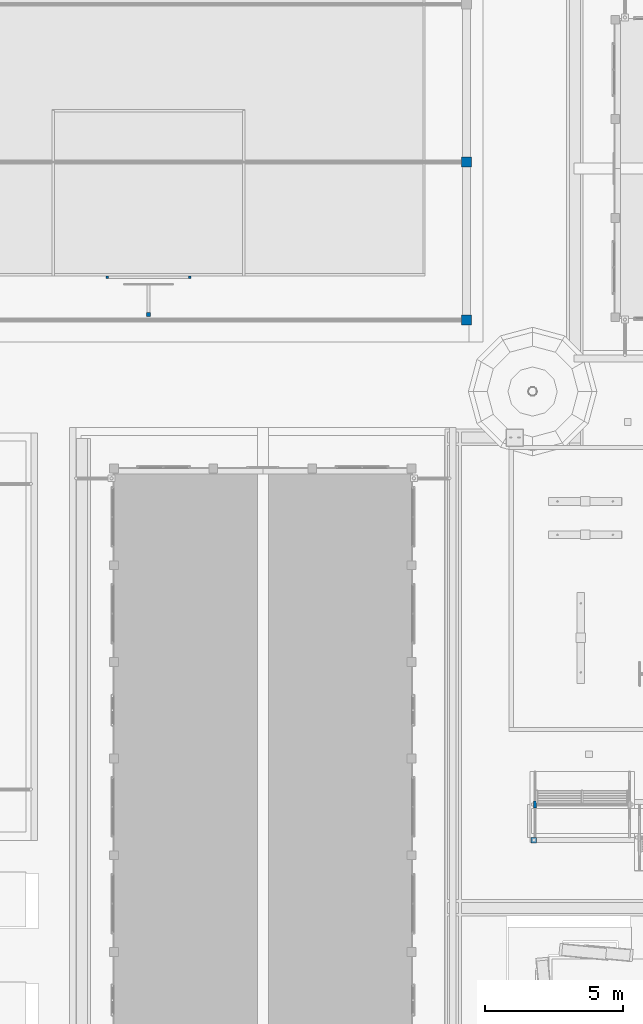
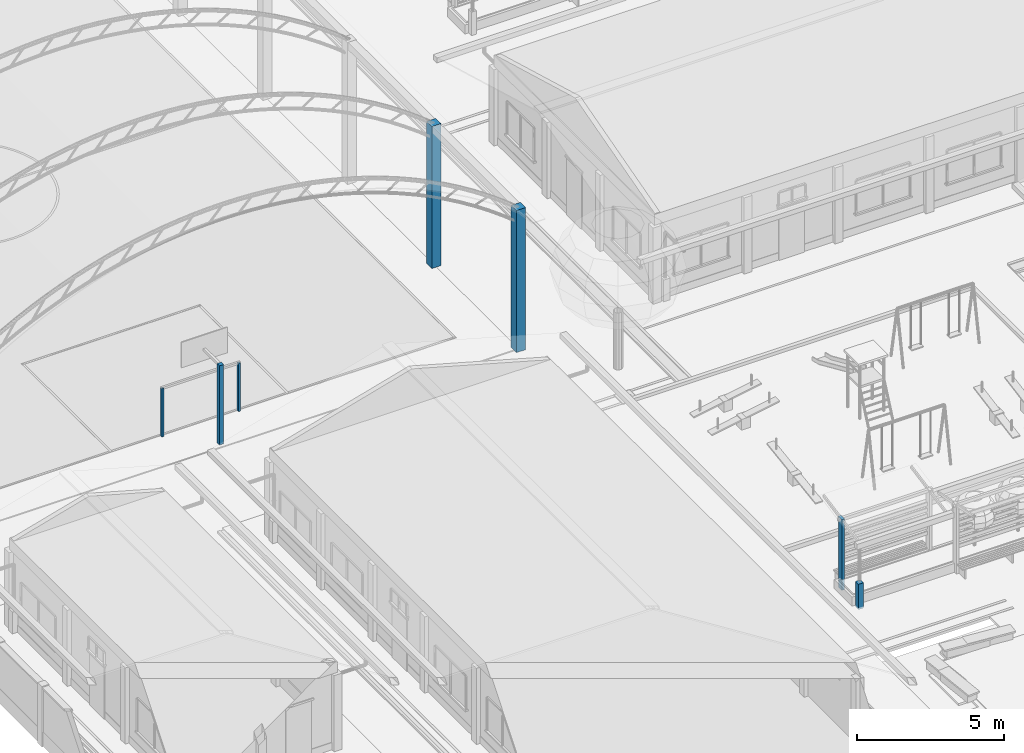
# One storey, part 7 of 177: 7 columns.
"""IFC4 building model written with IfcOpenShell, lengths in metres."""

from ifc_helpers import new_model, si_unit, origin, origin_with_axes, place, context, subcontext, project, spatial, triangles, element, save


model = new_model("IFC4")

# Units and contexts
model_context = context("Model", 3, precision=1e-05, world=origin_with_axes())
body_context = subcontext(model_context, "Body", "Model", "MODEL_VIEW")
ifc_project = project(units=[si_unit("LENGTHUNIT", "METRE"), si_unit("AREAUNIT", "SQUARE_METRE"), si_unit("VOLUMEUNIT", "CUBIC_METRE"), si_unit("PLANEANGLEUNIT", "RADIAN")], contexts=[model_context])

# Site, building, storey
site_placement = place(None, origin_with_axes())
site = spatial("IfcSite", under=ifc_project, at=site_placement, Name="Predio Los Mangos - Morales, San Martín", CompositionType="ELEMENT")
building_placement = place(site_placement, origin())
building = spatial("IfcBuilding", under=site, at=building_placement, Name="Hogar de Refugio Temporal", CompositionType="ELEMENT")
storey_placement = place(building_placement, origin())
storey = spatial("IfcBuildingStorey", under=building, at=storey_placement, Name="NIVEL 1 (NPT +0.00)", CompositionType="ELEMENT", Elevation=0.0)

# Columns
column_1_placement = place(storey_placement, origin())
element("IfcColumn", 1, at=column_1_placement, inside=storey, Name="poste_arco", ObjectType="Columna", PredefinedType="COLUMN", context=body_context, shape_type="Tessellation", body=[
    triangles([(13.51, 94.11, 0.12), (13.59, 94.11, 0.12), (13.59, 94.19, 0.12), (13.51, 94.19, 0.12), (13.51, 94.11, 2.12), (13.59, 94.11, 2.12), (13.59, 94.19, 2.12), (13.51, 94.19, 2.12)], [[1, 4, 3], [1, 3, 2], [5, 6, 7], [5, 7, 8], [1, 2, 6], [1, 6, 5], [2, 3, 7], [2, 7, 6], [3, 4, 8], [3, 8, 7], [4, 1, 5], [4, 5, 8]]),
])
column_2_placement = place(storey_placement, origin())
element("IfcColumn", 2, at=column_2_placement, inside=storey, Name="poste_arco", ObjectType="Columna", PredefinedType="COLUMN", context=body_context, shape_type="Tessellation", body=[
    triangles([(16.51, 94.11, 0.12), (16.59, 94.11, 0.12), (16.59, 94.19, 0.12), (16.51, 94.19, 0.12), (16.51, 94.11, 2.12), (16.59, 94.11, 2.12), (16.59, 94.19, 2.12), (16.51, 94.19, 2.12)], [[1, 4, 3], [1, 3, 2], [5, 6, 7], [5, 7, 8], [1, 2, 6], [1, 6, 5], [2, 3, 7], [2, 7, 6], [3, 4, 8], [3, 8, 7], [4, 1, 5], [4, 5, 8]]),
])
column_3_placement = place(storey_placement, origin())
element("IfcColumn", 3, at=column_3_placement, inside=storey, Name="poste_basquet", ObjectType="Columna", PredefinedType="COLUMN", context=body_context, shape_type="Tessellation", body=[
    triangles([(14.97, 92.72, 0.12), (15.13, 92.72, 0.12), (15.13, 92.88, 0.12), (14.97, 92.88, 0.12), (14.97, 92.72, 3.4), (15.13, 92.72, 3.4), (15.13, 92.88, 3.4), (14.97, 92.88, 3.4)], [[1, 4, 3], [1, 3, 2], [5, 6, 7], [5, 7, 8], [1, 2, 6], [1, 6, 5], [2, 3, 7], [2, 7, 6], [3, 4, 8], [3, 8, 7], [4, 1, 5], [4, 5, 8]]),
])
column_4_placement = place(storey_placement, origin())
element("IfcColumn", 4, at=column_4_placement, inside=storey, Name="columna_losa", ObjectType="Columna", PredefinedType="COLUMN", context=body_context, shape_type="Tessellation", body=[
    triangles([(26.42, 92.42, 0.12), (26.78, 92.42, 0.12), (26.78, 92.78, 0.12), (26.42, 92.78, 0.12), (26.42, 92.42, 6.0), (26.78, 92.42, 6.0), (26.78, 92.78, 6.0), (26.42, 92.78, 6.0)], [[1, 4, 3], [1, 3, 2], [5, 6, 7], [5, 7, 8], [1, 2, 6], [1, 6, 5], [2, 3, 7], [2, 7, 6], [3, 4, 8], [3, 8, 7], [4, 1, 5], [4, 5, 8]]),
])
column_5_placement = place(storey_placement, origin())
element("IfcColumn", 5, at=column_5_placement, inside=storey, Name="columna_losa", ObjectType="Columna", PredefinedType="COLUMN", context=body_context, shape_type="Tessellation", body=[
    triangles([(26.42, 98.1533, 0.12), (26.78, 98.1533, 0.12), (26.78, 98.5133, 0.12), (26.42, 98.5133, 0.12), (26.42, 98.1533, 6.0), (26.78, 98.1533, 6.0), (26.78, 98.5133, 6.0), (26.42, 98.5133, 6.0)], [[1, 4, 3], [1, 3, 2], [5, 6, 7], [5, 7, 8], [1, 2, 6], [1, 6, 5], [2, 3, 7], [2, 7, 6], [3, 4, 8], [3, 8, 7], [4, 1, 5], [4, 5, 8]]),
])
column_6_placement = place(storey_placement, origin())
element("IfcColumn", 6, at=column_6_placement, inside=storey, Name="oc01_columna", ObjectType="Columna", PredefinedType="COLUMN", context=body_context, shape_type="Tessellation", body=[
    triangles([(29.135, 75.125, 0.0), (29.035, 75.125, 0.0), (29.035, 74.875, 0.0), (29.135, 74.875, 0.0), (29.135, 75.125, 2.93), (29.035, 75.125, 2.93), (29.035, 74.875, 2.93), (29.135, 74.875, 2.93)], [[1, 4, 3], [1, 3, 2], [5, 6, 7], [5, 7, 8], [1, 2, 6], [1, 6, 5], [2, 3, 7], [2, 7, 6], [3, 4, 8], [3, 8, 7], [4, 1, 5], [4, 5, 8]]),
])
column_7_placement = place(storey_placement, origin())
element("IfcColumn", 7, at=column_7_placement, inside=storey, Name="oc01_falsa_columna", ObjectType="Falsa columna", PredefinedType="COLUMN", context=body_context, shape_type="Tessellation", body=[
    triangles([(29.145, 73.81, 0.0), (28.945, 73.81, 0.0), (28.945, 73.61, 0.0), (29.145, 73.61, 0.0), (29.145, 73.81, 1.05), (28.945, 73.81, 1.05), (28.945, 73.61, 1.05), (29.145, 73.61, 1.05)], [[1, 4, 3], [1, 3, 2], [5, 6, 7], [5, 7, 8], [1, 2, 6], [1, 6, 5], [2, 3, 7], [2, 7, 6], [3, 4, 8], [3, 8, 7], [4, 1, 5], [4, 5, 8]]),
])

save(model, "model.ifc")
